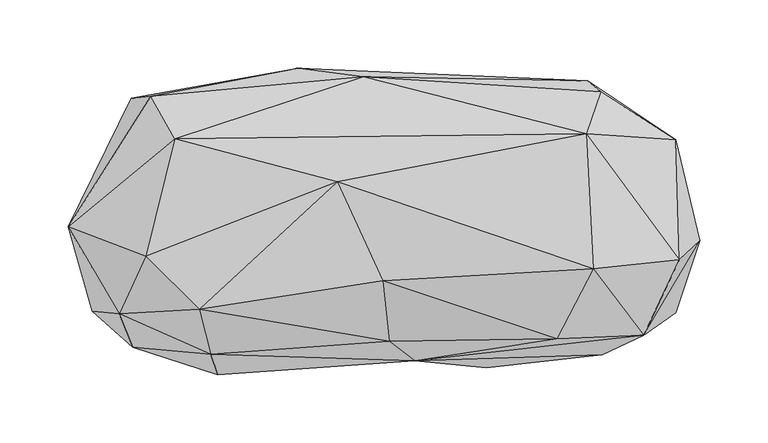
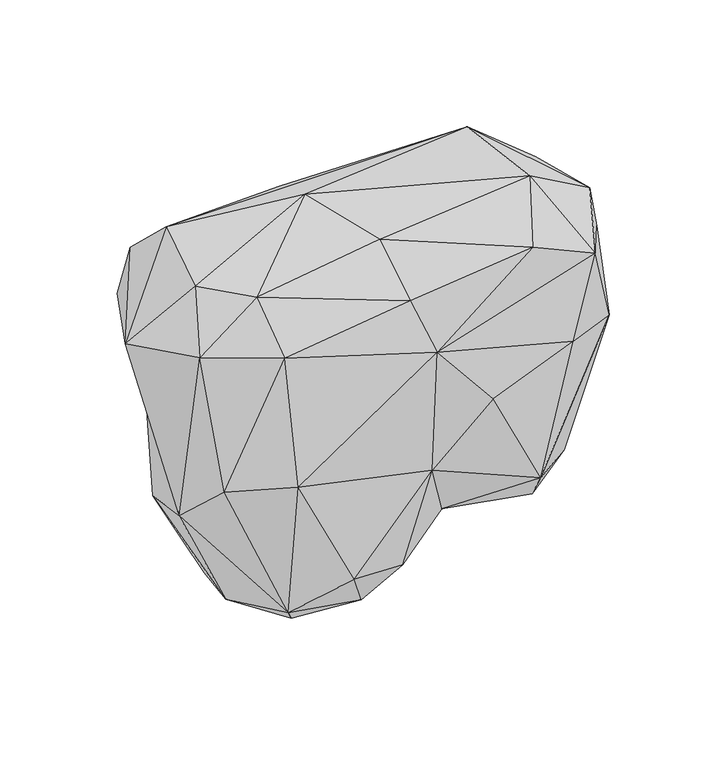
"""IFC4 building model written with IfcOpenShell, lengths in millimetres: geographic element geometry, Enscape AssetDefinition - Creeper Plant 031 Bower Vine : Enscape AssetDefinition - Creeper Plant 031 Bower Vine 2."""

from ifc_helpers import new_model, si_unit, origin, place, context, project, spatial, triangles, source, transform, mapped, element, save


def geographic_element_0aab1bf5(model_context):
    return source(origin(), model_context, "Body", "Tessellation", [
        triangles([(-219.165783, 0.0, -29.3586799), (209.6980288, 45.9790022, 0.0), (-229.0849813, 0.0, 0.0), (-186.2122712, 90.813443, 0.0), (-211.9421323, 20.9122569, 0.0), (-234.2145919, 10.2343646, 31.9843122), (-188.1017089, 104.3875055, 12.0076939), (-162.9926856, 104.9700644, 0.0), (-92.892068, 116.9682783, 0.0), (145.9205445, 111.2399124, 0.0), (-65.3920296, 126.5063498, 15.6143858), (35.2173816, 115.734451, 0.0), (147.0354928, 117.3142601, 14.2877453), (156.4997134, 109.0609666, 52.9787157), (166.734463, 94.1077278, 0.0), (211.3733989, 74.1149165, 34.22882), (214.1656885, -14.1040935, 53.8701266), (-17.614417, 120.2672956, 55.0984174), (145.6993734, 78.2287188, 86.1024661), (-36.7798067, 43.0844069, 100.0000008), (187.942925, -69.3415342, 27.6082553), (229.0849813, 0.0, 0.0), (150.8179381, -20.5449533, 92.6791903), (124.1152984, -72.125553, 58.0305331), (-156.1873052, 74.8771656, 88.3031312), (-3.520593, -29.3033849, 85.1135093), (1.1852478, -73.6832296, 45.5271811), (-129.6434312, -83.455898, 36.7873099), (-138.2032103, -50.4048267, 84.1470622), (-177.1959429, -11.4381736, 85.3173032), (-196.8834403, -53.6892374, 42.6764285), (-186.9101392, -78.1821192, -87.2995587), (19.8154783, -87.9259558, -6.3701638), (-120.6741022, -74.236557, -240.0736819), (-216.6112514, -51.8843103, -117.5666247), (-217.0176583, -7.0277574, -123.8159344), (-62.5673383, -87.1893728, -217.1235021), (-88.415697, -23.1413632, -287.9642544), (-124.6789086, -98.2515519, -91.984865), (-3.9408205, -68.9675154, -233.3753444), (18.4240673, -81.2777424, -134.5424145), (47.173733, -48.4352067, -204.7409912), (72.3791122, -93.1969731, -70.4189621), (127.6734206, -64.3078889, -207.3591272), (171.6646308, -43.3707493, -189.0815909), (123.252733, -86.8607682, -175.6903662), (157.5479053, -83.5416031, -45.5662821), (191.7636947, -10.5041156, -142.042529), (211.3986699, -52.912368, -55.3812081), (127.7737415, -4.5940694, -221.8889634), (44.9821471, 0.0, -197.8269874), (176.1390306, 0.0, -148.5130098), (201.1181019, 0.0, -85.3346895), (127.1035154, 0.0, -216.2099678), (29.5174479, -25.8246592, -233.9203693), (10.4914778, 0.0, -232.7216779), (47.2128295, -3.2646644, -205.9712577), (-24.8953372, -33.9796052, -284.3236154), (-9.9717217, 0.0, -249.6642848), (-56.6675622, 0.0, -276.122063), (-67.5089607, 0.0, -277.3925886), (-149.1433492, 0.0, -238.5953928), (-161.8129792, 0.0, -228.3953977), (-183.2039155, 0.0, -187.387254), (-168.7937486, -49.2535389, -223.7965868), (-210.8804784, 0.0, -111.6301139), (-173.8261994, 106.048278, 54.3405103)], [[18, 67, 25], [67, 6, 25], [1, 66, 36], [36, 66, 64], [64, 66, 1], [36, 63, 65], [36, 64, 63], [1, 63, 64], [1, 62, 63], [38, 63, 62], [38, 65, 63], [62, 61, 38], [1, 61, 62], [1, 60, 61], [61, 58, 38], [61, 60, 58], [60, 59, 58], [1, 59, 60], [1, 56, 59], [59, 55, 58], [59, 56, 55], [58, 55, 40], [40, 55, 42], [56, 57, 55], [57, 42, 55], [56, 51, 57], [1, 51, 56], [1, 54, 51], [1, 52, 54], [1, 53, 52], [1, 22, 53], [52, 53, 48], [22, 48, 53], [51, 50, 57], [51, 54, 50], [50, 42, 57], [50, 52, 48], [50, 54, 52], [50, 44, 42], [50, 45, 44], [50, 48, 45], [48, 22, 49], [49, 45, 48], [22, 21, 49], [49, 21, 47], [49, 47, 46], [44, 45, 46], [42, 44, 46], [49, 46, 45], [46, 47, 43], [47, 21, 33], [47, 33, 43], [41, 43, 33], [42, 46, 41], [43, 41, 46], [41, 40, 42], [40, 37, 58], [40, 41, 37], [41, 39, 37], [33, 39, 41], [58, 34, 38], [37, 39, 34], [37, 34, 58], [38, 34, 65], [1, 36, 35], [36, 65, 35], [65, 34, 35], [39, 32, 34], [34, 32, 35], [39, 33, 28], [28, 32, 39], [32, 28, 31], [31, 35, 32], [6, 35, 31], [30, 6, 31], [6, 30, 25], [29, 30, 31], [29, 31, 28], [33, 27, 28], [28, 27, 29], [33, 24, 27], [33, 21, 24], [26, 29, 27], [24, 26, 27], [29, 20, 30], [20, 25, 30], [20, 29, 26], [26, 23, 20], [24, 23, 26], [23, 24, 21], [21, 17, 23], [21, 22, 17], [23, 19, 20], [19, 25, 20], [18, 25, 19], [17, 19, 23], [19, 14, 18], [22, 16, 17], [17, 16, 19], [14, 19, 16], [16, 22, 2], [2, 15, 16], [18, 14, 13], [14, 16, 13], [13, 16, 15], [13, 15, 10], [10, 15, 2], [2, 12, 10], [2, 9, 12], [11, 12, 9], [11, 10, 12], [11, 13, 10], [18, 11, 67], [18, 13, 11], [6, 67, 7], [11, 7, 67], [11, 8, 7], [11, 9, 8], [2, 8, 9], [4, 6, 7], [7, 8, 4], [2, 4, 8], [4, 5, 6], [2, 5, 4], [5, 3, 6], [3, 35, 6], [3, 1, 35], [2, 3, 5], [2, 22, 3], [1, 3, 22]]),
    ])


if __name__ == "__main__":
    model = new_model("IFC4")
    model_context = context("Model", 3, world=origin())
    ifc_project = project(units=[si_unit("LENGTHUNIT", "METRE", prefix="MILLI")], contexts=[model_context])
    site = spatial("IfcSite", under=ifc_project)
    building = spatial("IfcBuilding", under=site)
    placement = place(None, origin())
    geographic_element_shape = geographic_element_0aab1bf5(model_context)
    element("IfcGeographicElement", 1, ObjectType="Enscape AssetDefinition - Creeper Plant 031 Bower Vine : Enscape AssetDefinition - Creeper Plant 031 Bower Vine 2", at=placement, inside=building, context=model_context, shape_type="MappedRepresentation", body=[
        mapped(geographic_element_shape, transform((0.0, 0.0, 0.0), x_axis=(1.0, 0.0, 0.0), y_axis=(0.0, 1.0, 0.0), z_axis=(0.0, 0.0, 1.0))),
    ])
    save(model, "model.ifc")
